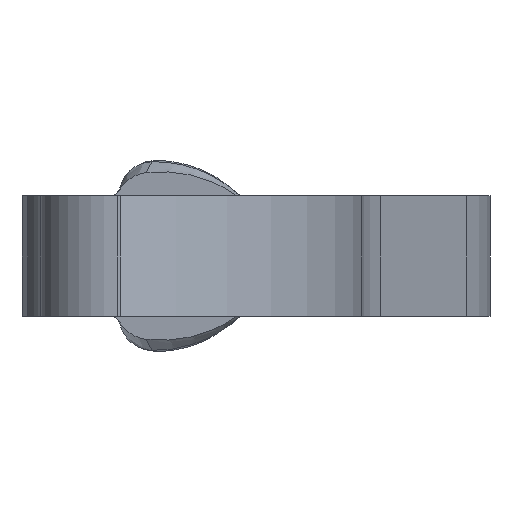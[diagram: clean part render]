
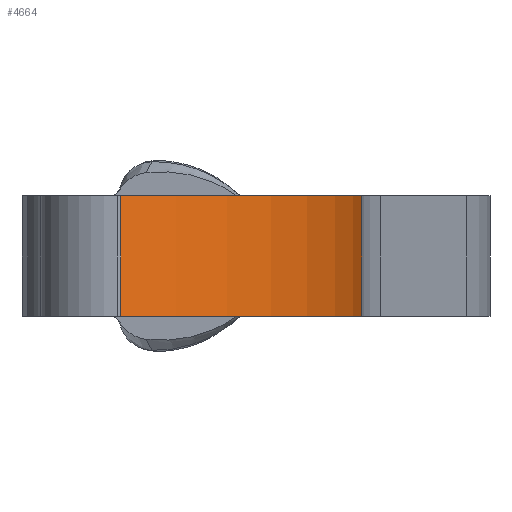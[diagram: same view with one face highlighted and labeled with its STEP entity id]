
A CAD part, left-side view. The second image highlights one B-rep face of the part: STEP entity #4664.
In plain terms, the highlighted cylindrical face has radius 14.859 mm (diameter 29.718 mm), a partial arc.
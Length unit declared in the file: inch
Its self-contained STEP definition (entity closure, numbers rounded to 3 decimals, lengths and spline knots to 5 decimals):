
#2233=CARTESIAN_POINT('Vertex',(0.08823,-0.2813,-0.09375)) ;
#2236=CARTESIAN_POINT('Axis2P3D Location',(0.12403,0.30261,-0.09375)) ;
#2240=CARTESIAN_POINT('Vertex',(-0.42239,0.09369,-0.09375)) ;
#3090=CARTESIAN_POINT('Vertex',(-0.42239,0.09369,0.09375)) ;
#3093=CARTESIAN_POINT('Axis2P3D Location',(0.12403,0.30261,0.09375)) ;
#3097=CARTESIAN_POINT('Vertex',(0.08823,-0.2813,0.09375)) ;
#4636=CARTESIAN_POINT('Line Origine',(0.08823,-0.2813,0.)) ;
#4648=CARTESIAN_POINT('Axis2P3D Location',(0.12403,0.30261,0.)) ;
#4653=CARTESIAN_POINT('Line Origine',(-0.42239,0.09369,0.)) ;
#2237=DIRECTION('Axis2P3D Direction',(0.,0.,1.)) ;
#3094=DIRECTION('Axis2P3D Direction',(0.,0.,1.)) ;
#4637=DIRECTION('Vector Direction',(0.,0.,1.)) ;
#4649=DIRECTION('Axis2P3D Direction',(0.,0.,1.)) ;
#4650=DIRECTION('Axis2P3D XDirection',(-0.934,-0.357,-0.)) ;
#4654=DIRECTION('Vector Direction',(0.,0.,1.)) ;
#2238=AXIS2_PLACEMENT_3D('Circle Axis2P3D',#2236,#2237,$) ;
#3095=AXIS2_PLACEMENT_3D('Circle Axis2P3D',#3093,#3094,$) ;
#4651=AXIS2_PLACEMENT_3D('Cylinder Axis2P3D',#4648,#4649,#4650) ;
#4659=ORIENTED_EDGE('',*,*,#4657,.F.) ;
#4660=ORIENTED_EDGE('',*,*,#2242,.T.) ;
#4661=ORIENTED_EDGE('',*,*,#4640,.T.) ;
#4662=ORIENTED_EDGE('',*,*,#3099,.F.) ;
#4638=VECTOR('Line Direction',#4637,0.03937) ;
#4655=VECTOR('Line Direction',#4654,0.03937) ;
#4664=ADVANCED_FACE('PartBody',(#4663),#4652,.T.) ;
#2239=CIRCLE('generated circle',#2238,0.585) ;
#3096=CIRCLE('generated circle',#3095,0.585) ;
#4652=CYLINDRICAL_SURFACE('generated cylinder',#4651,0.585) ;
#2242=EDGE_CURVE('',#2241,#2234,#2239,.T.) ;
#3099=EDGE_CURVE('',#3091,#3098,#3096,.T.) ;
#4640=EDGE_CURVE('',#2234,#3098,#4639,.T.) ;
#4657=EDGE_CURVE('',#2241,#3091,#4656,.T.) ;
#4658=EDGE_LOOP('',(#4659,#4660,#4661,#4662)) ;
#4663=FACE_OUTER_BOUND('',#4658,.T.) ;
#4639=LINE('Line',#4636,#4638) ;
#4656=LINE('Line',#4653,#4655) ;
#2234=VERTEX_POINT('',#2233) ;
#2241=VERTEX_POINT('',#2240) ;
#3091=VERTEX_POINT('',#3090) ;
#3098=VERTEX_POINT('',#3097) ;
